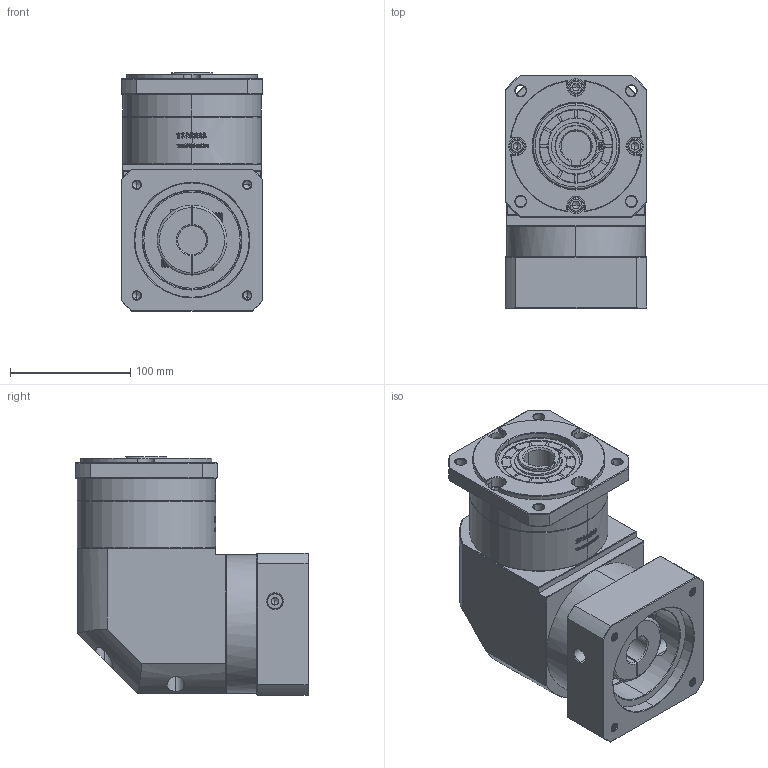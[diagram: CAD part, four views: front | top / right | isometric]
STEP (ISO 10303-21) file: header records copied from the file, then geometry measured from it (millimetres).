
FILE_DESCRIPTION (( 'STEP AP214' ), '1' );
FILE_NAME ('ZFR120A-K25-L1-24-95-130-M8.step', '2023-03-08T08:30:33', ( '' ), ( '' ), 'SwSTEP 2.0', 'SolidWorks 2016', '' );
FILE_SCHEMA (( 'AUTOMOTIVE_DESIGN' ));
Length unit declared in the file: millimetre
Products named in the file (1): ZFR120A-K25-L1-24-95-130-M8
Bounding box: 118 x 193.9 x 198 mm (x, y, z)
Volume: 2849991 mm3; surface area: 241675.3 mm2
Topology: 6 solids, 6 shells, 2814 faces, 7533 edges, 4864 vertices
Faces by surface type: plane 1477, bspline 597, cylinder 401, cone 331, torus 8
Entity records: 152464 total; most frequent: CARTESIAN_POINT 56813, ORIENTED_EDGE 15010, DIRECTION 10941, EDGE_CURVE 7505, VERTEX_POINT 4864, VECTOR 4697, LINE 4697, AXIS2_PLACEMENT_3D 3122
